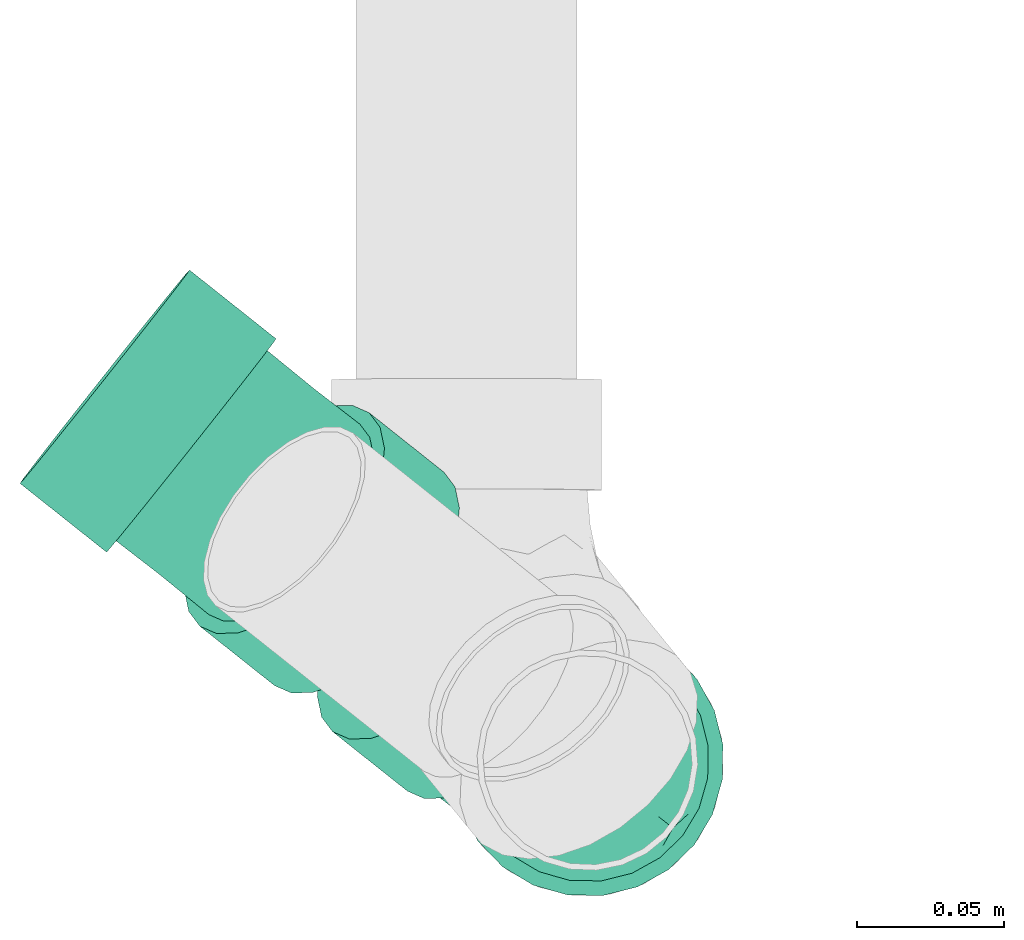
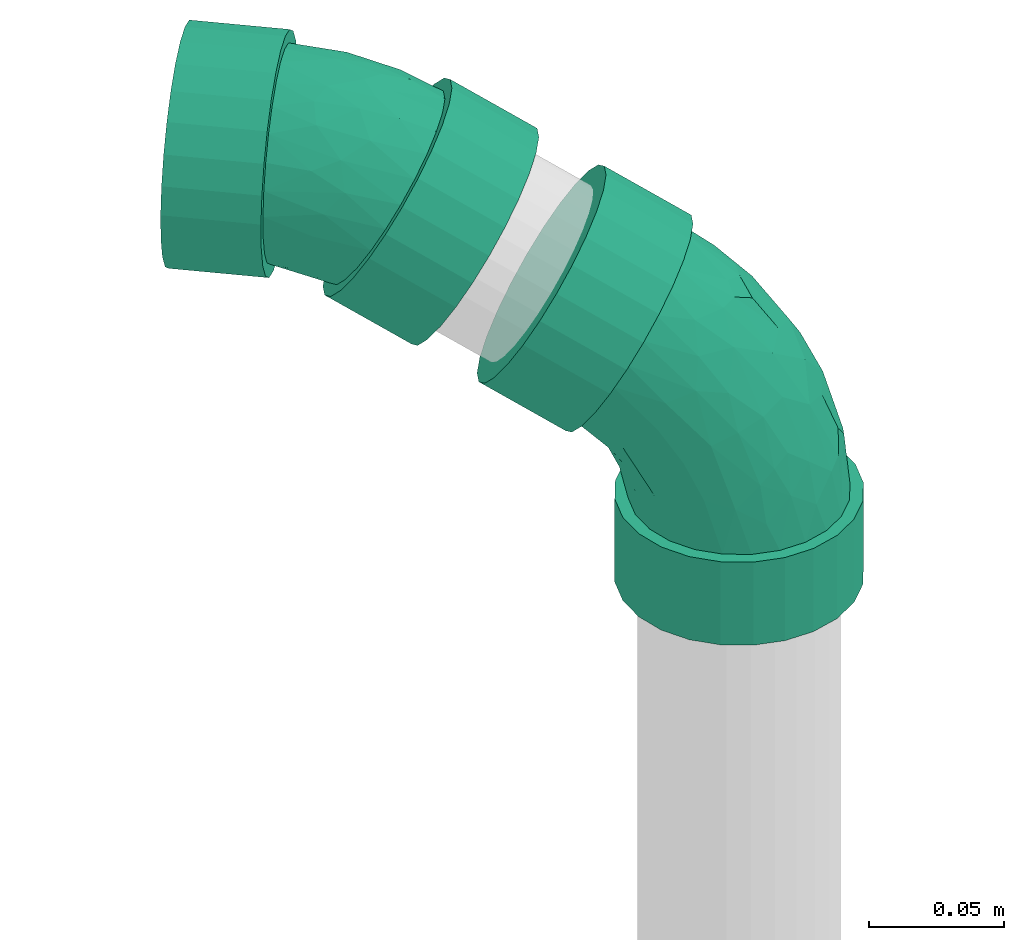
# One storey, part 4 of 4: 2 flow fittings.
"""IFC2X3 building model written with IfcOpenShell, lengths in millimetres."""

import ifcopenshell
import ifcopenshell.guid

model = None  # the IFC model being written
_history = None  # IfcOwnerHistory: only IFC2X3 demands one
_inside = {}  # id of a spatial element -> (the spatial element, [elements in it])
_under = {}  # id of a project, library or spatial element -> (it, [spatial elements below it])
_declared = {}  # id of a project -> (the project, [libraries it declares])
_typed = {}  # id of a type object -> (the type object, [elements of that type])
_made_of = {}  # id of a material, layer set ... -> (it, [elements and type objects made of it])


def new_model(schema):
    """Start an empty IFC model of exactly this schema.

    Asked for "IFC4X3", IfcOpenShell would pick the latest addendum, in which some entities
    have other attributes; the version numbers below select the first issue.
    IFC2X3 requires an IfcOwnerHistory on every rooted entity: one is made here for all.
    """
    global model, _history
    if schema == "IFC4X3":
        model = ifcopenshell.file(schema_version=(4, 3, 0, 0))
    else:
        model = ifcopenshell.file(schema=schema)
    _inside.clear()
    _under.clear()
    _declared.clear()
    _typed.clear()
    _made_of.clear()
    _history = None
    if model.schema == "IFC2X3":
        org = make("IfcOrganization", Name="unknown")
        user = make(
            "IfcPersonAndOrganization",
            ThePerson=make("IfcPerson", FamilyName="unknown"),
            TheOrganization=org,
        )
        app = make(
            "IfcApplication",
            ApplicationDeveloper=org,
            Version="unknown",
            ApplicationFullName="unknown",
            ApplicationIdentifier="unknown",
        )
        _history = make(
            "IfcOwnerHistory",
            OwningUser=user,
            OwningApplication=app,
            ChangeAction="ADDED",
            CreationDate=0,
        )
    return model


def make(cls, **values):
    """One entity of the class cls with the attributes given. An attribute that is None is left unset."""
    return model.create_entity(
        cls, **{name: value for name, value in values.items() if value is not None}
    )


def entity(cls, *values):
    """Any entity or typed value of the class cls, its attributes in the order of the schema. None: left unset."""
    e = model.create_entity(cls)
    for i, value in enumerate(values):
        if value is not None:
            e[i] = value
    return e


def rooted(cls, **values):
    """An entity with a GlobalId (a new one), such as an element, a storey or a relation."""
    return make(cls, GlobalId=ifcopenshell.guid.new(), OwnerHistory=_history, **values)


def si_unit(unit_type, name, prefix=None):
    """IfcSIUnit, for example si_unit("LENGTHUNIT", "METRE", prefix="MILLI")."""
    return make("IfcSIUnit", UnitType=unit_type, Prefix=prefix, Name=name)


def converted_unit(unit_type, name, factor, base, dimensions=None, offset=None):
    """IfcConversionBasedUnit, such as the inch: factor (a typed value) times the base unit."""
    return make(
        "IfcConversionBasedUnit"
        if offset is None
        else "IfcConversionBasedUnitWithOffset",
        ConversionOffset=offset,
        Dimensions=None
        if dimensions is None
        else entity("IfcDimensionalExponents", *dimensions),
        UnitType=unit_type,
        Name=name,
        ConversionFactor=make(
            "IfcMeasureWithUnit", ValueComponent=factor, UnitComponent=base
        ),
    )


def derived_unit(unit_type, elements):
    """IfcDerivedUnit: a product of units, each with its exponent."""
    return make(
        "IfcDerivedUnit",
        Elements=[
            make("IfcDerivedUnitElement", Unit=unit, Exponent=power)
            for unit, power in elements
        ],
        UnitType=unit_type,
    )


def assignment(units):
    """IfcUnitAssignment: the units of a project."""
    return None if units is None else make("IfcUnitAssignment", Units=units)


def point(xyz):
    """IfcCartesianPoint."""
    return None if xyz is None else make("IfcCartesianPoint", Coordinates=xyz)


def direction(xyz):
    """IfcDirection."""
    return None if xyz is None else make("IfcDirection", DirectionRatios=xyz)


def frame(location, z_axis=None, x_axis=None):
    """IfcAxis2Placement3D, a coordinate frame: its origin and axes. An axis left out is left unset."""
    return make(
        "IfcAxis2Placement3D",
        Location=point(location),
        Axis=direction(z_axis),
        RefDirection=direction(x_axis),
    )


def origin_with_axes():
    """The frame at (0, 0, 0) with the z axis (0, 0, 1) and the x axis (1, 0, 0) written out."""
    return frame((0.0, 0.0, 0.0), z_axis=(0.0, 0.0, 1.0), x_axis=(1.0, 0.0, 0.0))


def place(relative_to, where):
    """IfcLocalPlacement: puts the frame where relative to a parent placement (None: the world)."""
    return make(
        "IfcLocalPlacement", PlacementRelTo=relative_to, RelativePlacement=where
    )


def context(
    kind, dimensions, precision=None, world=None, true_north=None, identifier=None
):
    """IfcGeometricRepresentationContext, for example the 3D "Model" context."""
    return make(
        "IfcGeometricRepresentationContext",
        ContextIdentifier=identifier,
        ContextType=kind,
        CoordinateSpaceDimension=dimensions,
        Precision=precision,
        WorldCoordinateSystem=world,
        TrueNorth=true_north,
    )


def subcontext(parent, identifier, kind, view, scale=None):
    """IfcGeometricRepresentationSubContext, for example "Body" below "Model"."""
    return make(
        "IfcGeometricRepresentationSubContext",
        ContextIdentifier=identifier,
        ContextType=kind,
        ParentContext=parent,
        TargetScale=scale,
        TargetView=view,
    )


def project(units=None, contexts=None):
    """IfcProject with its units and contexts."""
    return rooted(
        "IfcProject",
        Name="project",
        RepresentationContexts=contexts,
        UnitsInContext=assignment(units),
    )


def spatial(cls, under=None, at=None, **own):
    """A site, building, storey or space (cls), placed at a placement, below another one or the project."""
    s = rooted(cls, ObjectPlacement=at, **own)
    if under is not None:
        _under.setdefault(under.id(), (under, []))[1].append(s)
    return s


def faces_of(points, faces, orient=None, outer=None):
    """IfcFace entities. A face is a list of loops; a loop is a list of indices into points, from 0.

    orient and outer hold one flag for each loop. By default every Orientation is true, the
    first loop of a face is its IfcFaceOuterBound and the others are IfcFaceBound.
    """
    made = []
    for i, loops in enumerate(faces):
        bounds = []
        for j, loop in enumerate(loops):
            is_outer = j == 0 if outer is None else outer[i][j]
            bounds.append(
                make(
                    "IfcFaceOuterBound" if is_outer else "IfcFaceBound",
                    Bound=make("IfcPolyLoop", Polygon=[points[k] for k in loop]),
                    Orientation=True if orient is None else orient[i][j],
                )
            )
        made.append(make("IfcFace", Bounds=bounds))
    return made


def open_shell(faces, orient=None, outer=None):
    """The faces of one IfcOpenShell. surface_model builds it on its shared points."""
    return ("IfcOpenShell", faces, orient, outer)


def surface_model(cls, points, shells):
    """IfcFaceBasedSurfaceModel or IfcShellBasedSurfaceModel (cls): surfaces that need not close."""
    shared = [point(p) for p in points]
    made = [make(c, CfsFaces=faces_of(shared, fs, o, b)) for c, fs, o, b in shells]
    if cls == "IfcFaceBasedSurfaceModel":
        return make(cls, FbsmFaces=made)
    return make(cls, SbsmBoundary=made)


def shape(context_of_items, identifier, shape_type, items):
    """IfcShapeRepresentation: the items that make up one representation, for example the "Body"."""
    return make(
        "IfcShapeRepresentation",
        ContextOfItems=context_of_items,
        RepresentationIdentifier=identifier,
        RepresentationType=shape_type,
        Items=items,
    )


def source(mapping_origin, context_of_items, identifier, shape_type, items):
    """IfcRepresentationMap: a shape defined once, which mapped items show again and again."""
    return make(
        "IfcRepresentationMap",
        MappingOrigin=mapping_origin,
        MappedRepresentation=shape(context_of_items, identifier, shape_type, items),
    )


def transform(
    local_origin,
    x_axis=None,
    y_axis=None,
    z_axis=None,
    scale=None,
    scale2=None,
    scale3=None,
    uniform=True,
):
    """IfcCartesianTransformationOperator3D, or its non-uniform kind. x_axis, y_axis, z_axis: its Axis1, 2, 3."""
    if uniform:
        return make(
            "IfcCartesianTransformationOperator3D",
            Axis1=direction(x_axis),
            Axis2=direction(y_axis),
            LocalOrigin=point(local_origin),
            Scale=scale,
            Axis3=direction(z_axis),
        )
    return make(
        "IfcCartesianTransformationOperator3DnonUniform",
        Axis1=direction(x_axis),
        Axis2=direction(y_axis),
        LocalOrigin=point(local_origin),
        Scale=scale,
        Axis3=direction(z_axis),
        Scale2=scale2,
        Scale3=scale3,
    )


def mapped(mapping_source, mapping_target):
    """IfcMappedItem: shows the shape of a source again, moved by a transform."""
    return make(
        "IfcMappedItem", MappingSource=mapping_source, MappingTarget=mapping_target
    )


def made_of(thing, what):
    """Note that an element or type object is made of a material, layer set ...; save() writes the relation."""
    if what is not None:
        _made_of.setdefault(what.id(), (what, []))[1].append(thing)
    return thing


def type_object(cls, material=None, **own):
    """A type object (cls), such as IfcWallType, which elements share."""
    return made_of(rooted(cls, **own), material)


def element(
    cls,
    number,
    at=None,
    inside=None,
    cuts=None,
    type_object=None,
    material=None,
    context=None,
    identifier="Body",
    shape_type=None,
    held_by="IfcProductDefinitionShape",
    body=None,
    shapes=None,
    **own,
):
    """One element of the class cls, such as IfcWall. Its Tag is "e" and its number.

    at: its placement. inside: the storey or other place that contains it. cuts: it is an
    opening in that element (IfcRelVoidsElement). A single representation is given by context,
    identifier, shape_type and body (its items); several are given by shapes. held_by: the class
    of the entity that holds the representations. save() writes the other relations.
    """
    e = rooted(cls, Tag="e%d" % number, ObjectPlacement=at, **own)
    if body is not None:
        shapes = [shape(context, identifier, shape_type, body)]
    if shapes is not None:
        e.Representation = make(held_by, Representations=shapes)
    if inside is not None:
        _inside.setdefault(inside.id(), (inside, []))[1].append(e)
    if cuts is not None:
        rooted(
            "IfcRelVoidsElement", RelatingBuildingElement=cuts, RelatedOpeningElement=e
        )
    if type_object is not None:
        _typed.setdefault(type_object.id(), (type_object, []))[1].append(e)
    return made_of(e, material)


def aggregate(whole, parts):
    """IfcRelAggregates: a whole, such as a stair, and the parts it consists of."""
    return rooted("IfcRelAggregates", RelatingObject=whole, RelatedObjects=parts)


def save(model, path):
    """Write the relations noted so far, then the file.

    IfcRelAggregates (storeys below a building ...), IfcRelContainedInSpatialStructure (elements
    in a storey), IfcRelDefinesByType, IfcRelAssociatesMaterial and IfcRelDeclares: one each for
    every whole, place, type object, material and project.
    """
    for whole, parts in _under.values():
        aggregate(whole, parts)
    for where, things in _inside.values():
        rooted(
            "IfcRelContainedInSpatialStructure",
            RelatedElements=things,
            RelatingStructure=where,
        )
    for kind, things in _typed.values():
        rooted("IfcRelDefinesByType", RelatedObjects=things, RelatingType=kind)
    for what, things in _made_of.values():
        rooted("IfcRelAssociatesMaterial", RelatedObjects=things, RelatingMaterial=what)
    for by, libraries in _declared.values():
        rooted("IfcRelDeclares", RelatingContext=by, RelatedDefinitions=libraries)
    model.write(path)


model = new_model("IFC2X3")

# Units and contexts
model_context = context("Model", 3, precision=0.01, world=frame((0.0, 4.29681676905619e-09, 0.0)), true_north=direction((4.01073788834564e-13, 1.0)))
plan_context = context("Plan", 3, precision=0.01, world=frame((0.0, 4.29681676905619e-09, 0.0)), true_north=direction((4.01073788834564e-13, 1.0)))
body_context = subcontext(model_context, "Body", "Model", "MODEL_VIEW")
ifc_project = project(units=[converted_unit("PLANEANGLEUNIT", "DEGREE", entity("IfcPositiveLengthMeasure", 0.0174532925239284), si_unit("PLANEANGLEUNIT", "RADIAN"), dimensions=[0, 0, 0, 0, 0, 0, 0]), si_unit("AREAUNIT", "SQUARE_METRE"), si_unit("LENGTHUNIT", "METRE", prefix="MILLI"), si_unit("MASSUNIT", "GRAM", prefix="KILO"), si_unit("POWERUNIT", "WATT"), si_unit("PRESSUREUNIT", "PASCAL", prefix="KILO"), si_unit("FORCEUNIT", "NEWTON", prefix="KILO"), si_unit("ELECTRICVOLTAGEUNIT", "VOLT"), si_unit("ELECTRICCURRENTUNIT", "AMPERE"), si_unit("THERMODYNAMICTEMPERATUREUNIT", "DEGREE_CELSIUS"), si_unit("TIMEUNIT", "SECOND"), si_unit("VOLUMEUNIT", "CUBIC_METRE"), derived_unit("LINEARVELOCITYUNIT", [(si_unit("LENGTHUNIT", "METRE"), 1), (si_unit("TIMEUNIT", "SECOND"), -1)]), derived_unit("VOLUMETRICFLOWRATEUNIT", [(si_unit("VOLUMEUNIT", "CUBIC_METRE"), 1), (si_unit("TIMEUNIT", "SECOND"), -1)]), derived_unit("THERMALTRANSMITTANCEUNIT", [(si_unit("POWERUNIT", "WATT"), 1), (si_unit("THERMODYNAMICTEMPERATUREUNIT", "KELVIN"), -1), (si_unit("AREAUNIT", "SQUARE_METRE"), -1)]), derived_unit("SOUNDPRESSUREUNIT", [(si_unit("PRESSUREUNIT", "PASCAL"), 1)])], contexts=[model_context, plan_context])

# Site, building, storey
site_placement = place(None, frame((0.0, -4.29681676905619e-09, 0.0), z_axis=(0.0, 0.0, 1.0), x_axis=(1.0, 0.0, 0.0)))
site = spatial("IfcSite", under=ifc_project, at=site_placement, CompositionType="ELEMENT")
building_placement = place(site_placement, frame((0.0, 4.29681676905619e-09, 0.0), z_axis=(0.0, 0.0, 1.0), x_axis=(1.0, 0.0, 0.0)))
building = spatial("IfcBuilding", under=site, at=building_placement, Name="mc-building", CompositionType="ELEMENT")
storey_placement = place(building_placement, frame((0.0, 0.0, 200300.0), z_axis=(0.0, 0.0, 1.0), x_axis=(1.0, 0.0, 0.0)))
storey = spatial("IfcBuildingStorey", under=building, at=storey_placement, Name="Nivå C", CompositionType="ELEMENT", Elevation=200300.0)

# Flow fittings
pipe_fitting_type = type_object("IfcPipeFittingType", Name="magi_sewer_bend_001", PredefinedType="BEND")
shared_shape_1 = source(origin_with_axes(), body_context, "Body", "SurfaceModel", [
    surface_model("IfcShellBasedSurfaceModel", [(-85.16846, -44.67407, -11.97038), (-85.16846, -11.97038, -44.67407), (-85.16846, -23.125, -40.05367), (-85.16846, -32.70369, -32.70369), (-85.16846, 0.0, -46.25), (-85.16846, -40.05367, -23.125), (-85.16846, -46.25, 0.0), (-85.16846, 11.97038, -44.67407), (-85.16846, 32.70369, -32.70369), (-85.16846, 23.125, -40.05367), (-85.16846, 44.67407, -11.97038), (-85.16846, 40.05367, -23.125), (-85.16846, -32.70369, 32.70369), (-85.16846, -44.67407, 11.97038), (-85.16846, -40.05367, 23.125), (-85.16846, 40.05367, 23.125), (-85.16846, -23.125, 40.05367), (-85.16846, -11.97038, 44.67407), (-85.16846, 0.0, 46.25), (-85.16846, 11.97038, 44.67407), (-85.16846, 44.67407, 11.97038), (-85.16846, 46.25, 0.0), (-85.16846, 23.125, 40.05367), (-85.16846, 32.70369, 32.70369), (-47.66846, 0.0, 46.25), (-47.66846, -11.97038, 44.67407), (-47.66846, -23.125, 40.05367), (-47.66846, -32.70369, 32.70369), (-47.66846, -40.05367, 23.125), (-47.66846, -44.67407, 11.97038), (-47.66846, 40.05367, 23.125), (-47.66846, -44.67407, -11.97038), (-47.66846, 23.125, 40.05367), (-47.66846, 32.70369, 32.70369), (-47.66846, 11.97038, 44.67407), (-47.66846, 44.67407, 11.97038), (-47.66846, 44.67407, -11.97038), (-47.66846, 46.25, 0.0), (-47.66846, -32.70369, -32.70369), (-47.66846, -40.05367, -23.125), (-47.66846, -23.125, -40.05367), (-47.66846, -11.97038, -44.67407), (-47.66846, 11.97038, -44.67407), (-47.66846, 32.70369, -32.70369), (-47.66846, 40.05367, -23.125), (-47.66846, 23.125, -40.05367), (-47.66846, 0.0, -46.25), (-47.66846, -46.25, 0.0), (7.83354, 93.79019, 23.125), (2.46528, 96.88473, 0.0), (3.83061, 96.09769, 11.97038), (32.16384, 79.76493, 44.67407), (14.20129, 90.11948, 32.70369), (32.16384, 79.76493, -44.67407), (22.49991, 85.33573, 40.05367), (70.86776, 57.45396, 32.70369), (3.83061, 96.09769, -11.97038), (14.20129, 90.11948, -32.70369), (7.83354, 93.79019, -23.125), (22.49991, 85.33573, -40.05367), (42.53453, 73.78672, 46.25), (52.90521, 67.80852, 44.67407), (62.56915, 62.23772, 40.05367), (81.23845, 51.47576, -11.97038), (77.23551, 53.78326, 23.125), (81.23845, 51.47576, 11.97038), (82.60377, 50.68871, 0.0), (62.56915, 62.23772, -40.05367), (52.90521, 67.80852, -44.67407), (42.53453, 73.78672, -46.25), (70.86776, 57.45396, -32.70369), (77.23551, 53.78326, -23.125), (63.87566, 18.20013, 0.0), (62.51033, 18.98718, 11.97038), (58.5074, 21.29468, 23.125), (43.84103, 29.74914, -40.05367), (52.13965, 24.96538, 32.70369), (43.84103, 29.74914, 40.05367), (34.17709, 35.31994, 44.67407), (13.43573, 47.27635, -44.67407), (62.51033, 18.98718, -11.97038), (52.13965, 24.96538, -32.70369), (58.5074, 21.29468, -23.125), (34.17709, 35.31994, -44.67407), (23.80641, 41.29814, -46.25), (13.43573, 47.27635, 44.67407), (-4.52682, 57.6309, 32.70369), (3.77179, 52.84715, 40.05367), (-10.89457, 61.30161, 23.125), (-14.89751, 63.60911, 11.97038), (-4.52682, 57.6309, -32.70369), (3.77179, 52.84715, -40.05367), (-16.26283, 64.39616, 0.0), (-10.89457, 61.30161, -23.125), (-14.89751, 63.60911, -11.97038), (23.80641, 41.29814, 46.25), (-47.66846, 0.0, -41.25), (-47.66846, -35.72355, 20.625), (-47.66846, 10.67629, -39.84444), (-47.66846, 20.625, -35.72355), (-47.66846, 35.72355, -20.625), (-47.66846, 29.16816, -29.16816), (-47.66846, -41.25, 0.0), (-47.66846, -29.16816, -29.16816), (-47.66846, -20.625, -35.72355), (-47.66846, -10.67629, -39.84444), (-47.66846, -39.84444, -10.67629), (-47.66846, -35.72355, -20.625), (-47.66846, 39.84444, -10.67629), (-47.66846, 35.72355, 20.625), (-47.66846, 39.84444, 10.67629), (-47.66846, 41.25, 0.0), (-47.66846, -10.67629, 39.84444), (-47.66846, 10.67629, 39.84444), (-47.66846, 20.625, 35.72355), (-47.66846, 29.16816, 29.16816), (-47.66846, 0.0, 41.25), (-47.66846, -29.16816, 29.16816), (-47.66846, -39.84444, 10.67629), (-47.66846, -20.625, 35.72355), (14.55688, 46.63006, -39.84444), (41.67513, 30.99768, -35.72355), (23.80641, 41.29814, -41.25), (-1.46377, 55.8652, -29.16816), (5.93769, 51.59861, -35.72355), (-7.14312, 59.13907, -20.625), (-10.7133, 61.19711, -10.67629), (59.54384, 20.69722, 0.0), (-1.46377, 55.8652, 29.16816), (49.0766, 26.73109, -29.16816), (33.05594, 35.96623, -39.84444), (58.32612, 21.39918, -10.67629), (54.75594, 23.45722, -20.625), (-11.93102, 61.89907, 0.0), (-10.7133, 61.19711, 10.67629), (-7.14312, 59.13907, 20.625), (5.93769, 51.59861, 35.72355), (49.0766, 26.73109, 29.16816), (23.80641, 41.29814, 41.25), (14.55688, 46.63006, 39.84444), (54.75594, 23.45722, 20.625), (58.32612, 21.39918, 10.67629), (33.05594, 35.96623, 39.84444), (41.67513, 30.99768, 35.72355), (-33.54198, -32.49785, 24.25947), (-25.30998, -36.65663, 14.18002), (-15.41949, -29.61675, 23.11882), (-27.27856, -38.56387, 0.0), (-15.61947, -37.02792, 0.0), (-22.85422, -38.1422, 6.90644), (-27.53789, -4.67298, 40.65737), (-24.21126, 6.99275, 41.10689), (1.33068, 35.26122, 38.64069), (6.03324, 24.46801, 41.10689), (-25.4555, -24.1331, 31.67701), (-17.93737, -13.38105, 37.17117), (-34.96458, -15.86374, 37.72687), (-8.25869, -22.40159, 28.77083), (-12.71212, -18.17991, 33.49509), (-28.87771, 26.78166, 33.76311), (-0.01259, 4.50357, 40.27775), (33.97529, 10.45086, 31.70476), (-21.95843, 38.00355, 27.08754), (-34.45901, 35.38386, 23.97511), (2.96965, -28.23165, 12.65482), (11.40777, -19.4341, 21.31566), (-20.82105, 46.26773, 17.3905), (-12.81246, 22.17458, 39.20444), (-31.21354, 16.45719, 38.64069), (-28.25874, 44.89425, 9.33166), (-34.96495, 39.46279, 16.90464), (4.26188, -5.1104, 36.43275), (22.06225, 10.50322, 37.24561), (44.39813, 3.62068, 14.18002), (-10.94438, 47.88478, 25.98884), (17.80137, 21.52402, 40.65737), (25.32921, -14.59896, 13.50148), (27.06143, -14.80502, 0.0), (44.45873, 0.75119, 6.90644), (44.90632, 12.82954, 24.25947), (-8.78061, 38.39375, 33.76311), (-0.68842, -30.83886, 0.0), (-8.43139, 14.59224, 41.04856), (19.38324, -1.07603, 33.0756), (33.35957, -1.43223, 23.11882), (-27.03143, 46.7834, 0.0), (14.24264, -24.64979, 0.0), (47.03363, 4.37367, 0.0), (7.82411, -13.54123, 29.89718), (39.88021, -4.96024, 0.0), (-20.11784, -13.86842, -37.24561), (22.97574, -16.67214, -12.65482), (44.39813, 3.62068, -14.18002), (44.45873, 0.75119, -6.90644), (6.03325, 24.46801, -41.10689), (-24.21126, 6.99275, -41.10689), (-29.68624, 41.14544, -17.3905), (-21.95843, 38.00355, -27.08754), (-36.01976, 33.39624, -25.98884), (17.80137, 21.52402, -40.65737), (-28.87771, 26.78166, -33.76311), (44.90632, 12.82954, -24.25947), (-8.78061, 38.39375, -33.76311), (-25.30998, -36.65663, -14.18002), (-31.21354, 16.45718, -38.64069), (-33.54198, -32.49785, -24.25947), (-16.72699, 50.00067, -16.90464), (-22.85422, -38.1422, -6.90644), (-0.00184, -29.23523, -13.50148), (11.13974, -19.58897, -21.31566), (-26.02205, -24.21557, -31.70476), (2.299, -6.24455, -36.43275), (-3.89543, 2.26006, -40.27775), (20.55105, 8.85755, -37.17117), (-8.43139, 14.59224, -41.04856), (-12.81246, 22.17458, -39.20444), (-27.53789, -4.67298, -40.65737), (-8.74808, -17.33029, -33.0756), (-15.41949, -29.61675, -23.11882), (-24.78179, 46.90323, -9.33166), (-13.44584, 47.52526, -23.97511), (1.33068, 35.26122, -38.64069), (33.35958, -1.43223, -23.11882), (33.6209, 10.00122, -31.67701), (23.53242, -4.03271, -28.77083), (22.09903, 1.93395, -33.49509), (31.20563, 22.36938, -37.72687), (7.82411, -13.54123, -29.89718)], [open_shell([[[0, 1, 2]], [[0, 2, 3]], [[1, 0, 4]], [[0, 3, 5]], [[4, 0, 6]], [[7, 8, 9]], [[8, 7, 4]], [[8, 10, 11]], [[10, 8, 4]], [[4, 6, 10]], [[6, 12, 10]], [[13, 14, 12]], [[10, 12, 15]], [[16, 17, 18]], [[16, 18, 12]], [[19, 12, 18]], [[10, 20, 21]], [[15, 20, 10]], [[15, 22, 23]], [[22, 15, 19]], [[12, 19, 15]], [[6, 13, 12]], [[24, 25, 26]], [[24, 26, 27]], [[27, 28, 29]], [[24, 27, 30]], [[27, 31, 30]], [[32, 30, 33]], [[30, 32, 34]], [[35, 36, 37]], [[30, 34, 24]], [[35, 30, 36]], [[27, 29, 31]], [[36, 30, 31]], [[38, 31, 39]], [[40, 41, 31]], [[40, 31, 38]], [[42, 31, 41]], [[36, 43, 44]], [[36, 31, 43]], [[43, 42, 45]], [[31, 42, 43]], [[41, 46, 42]], [[31, 29, 47]], [[36, 10, 37]], [[44, 11, 36]], [[9, 43, 45]], [[44, 43, 8]], [[7, 45, 42]], [[36, 11, 10]], [[10, 21, 37]], [[7, 9, 45]], [[8, 43, 9]], [[8, 11, 44]], [[4, 7, 42]], [[42, 46, 4]], [[46, 41, 1]], [[5, 39, 31]], [[39, 3, 38]], [[0, 31, 47]], [[1, 40, 2]], [[40, 1, 41]], [[40, 38, 2]], [[38, 3, 2]], [[39, 5, 3]], [[0, 5, 31]], [[47, 6, 0]], [[46, 1, 4]], [[29, 13, 47]], [[28, 14, 29]], [[16, 27, 26]], [[28, 27, 12]], [[17, 26, 25]], [[29, 14, 13]], [[13, 6, 47]], [[17, 16, 26]], [[12, 27, 16]], [[12, 14, 28]], [[18, 17, 25]], [[25, 24, 18]], [[33, 22, 32]], [[35, 15, 30]], [[33, 30, 23]], [[20, 35, 37]], [[32, 19, 34]], [[32, 22, 19]], [[19, 18, 34]], [[33, 23, 22]], [[30, 15, 23]], [[20, 15, 35]], [[37, 21, 20]], [[34, 18, 24]], [[48, 49, 50]], [[51, 48, 52]], [[48, 51, 53]], [[51, 52, 54]], [[51, 55, 53]], [[56, 57, 58]], [[57, 56, 49]], [[57, 53, 59]], [[53, 57, 49]], [[49, 48, 53]], [[51, 60, 61]], [[61, 62, 55]], [[63, 53, 55]], [[64, 65, 66]], [[55, 64, 63]], [[66, 63, 64]], [[67, 68, 53]], [[69, 53, 68]], [[70, 63, 71]], [[63, 70, 67]], [[67, 53, 63]], [[51, 61, 55]], [[72, 73, 74]], [[75, 72, 74]], [[76, 77, 78]], [[79, 75, 74]], [[74, 76, 79]], [[80, 81, 82]], [[81, 80, 75]], [[83, 79, 84]], [[75, 80, 72]], [[83, 75, 79]], [[76, 78, 85]], [[79, 76, 85]], [[86, 85, 87]], [[79, 86, 88]], [[79, 85, 86]], [[89, 79, 88]], [[79, 90, 91]], [[90, 79, 92]], [[93, 92, 94]], [[92, 93, 90]], [[79, 89, 92]], [[85, 78, 95]], [[79, 53, 84]], [[91, 59, 79]], [[58, 90, 93]], [[91, 90, 57]], [[56, 93, 94]], [[79, 59, 53]], [[53, 69, 84]], [[56, 58, 93]], [[57, 90, 58]], [[57, 59, 91]], [[49, 56, 94]], [[94, 92, 49]], [[92, 89, 50]], [[54, 87, 85]], [[87, 52, 86]], [[51, 85, 95]], [[50, 88, 48]], [[88, 50, 89]], [[88, 86, 48]], [[86, 52, 48]], [[87, 54, 52]], [[51, 54, 85]], [[95, 60, 51]], [[92, 50, 49]], [[78, 61, 95]], [[77, 62, 78]], [[64, 76, 74]], [[77, 76, 55]], [[65, 74, 73]], [[78, 62, 61]], [[61, 60, 95]], [[65, 64, 74]], [[55, 76, 64]], [[55, 62, 77]], [[66, 65, 73]], [[73, 72, 66]], [[81, 71, 82]], [[83, 67, 75]], [[81, 75, 70]], [[68, 83, 84]], [[82, 63, 80]], [[82, 71, 63]], [[63, 66, 80]], [[81, 70, 71]], [[75, 67, 70]], [[68, 67, 83]], [[84, 69, 68]], [[80, 66, 72]], [[96, 97, 98]], [[99, 98, 100]], [[100, 98, 97]], [[101, 99, 100]], [[97, 96, 102]], [[103, 102, 104]], [[96, 105, 104]], [[106, 102, 107]], [[103, 107, 102]], [[104, 102, 96]], [[108, 100, 97]], [[109, 110, 111]], [[109, 111, 112]], [[113, 114, 115]], [[109, 113, 115]], [[113, 109, 116]], [[97, 117, 111]], [[97, 102, 118]], [[119, 112, 117]], [[112, 111, 117]], [[116, 109, 112]], [[111, 108, 97]], [[120, 121, 122]], [[123, 120, 124]], [[123, 125, 126]], [[120, 123, 127]], [[123, 128, 127]], [[121, 127, 129]], [[121, 130, 122]], [[129, 131, 132]], [[131, 129, 127]], [[120, 127, 121]], [[123, 126, 133]], [[133, 134, 135]], [[135, 128, 123]], [[136, 137, 127]], [[127, 128, 136]], [[138, 136, 139]], [[127, 140, 141]], [[137, 140, 127]], [[137, 142, 143]], [[142, 137, 138]], [[136, 138, 137]], [[123, 133, 135]], [[144, 145, 146]], [[147, 148, 149]], [[116, 150, 151]], [[139, 152, 153]], [[154, 155, 156]], [[157, 158, 154]], [[115, 114, 159]], [[150, 160, 151]], [[119, 156, 112]], [[139, 136, 152]], [[137, 143, 161]], [[113, 116, 151]], [[145, 97, 118]], [[162, 163, 159]], [[146, 164, 165]], [[163, 162, 166]], [[167, 168, 151]], [[164, 145, 149]], [[119, 117, 154]], [[169, 110, 170]], [[117, 97, 144]], [[111, 110, 169]], [[166, 170, 163]], [[160, 171, 172]], [[113, 168, 114]], [[140, 173, 141]], [[145, 164, 146]], [[128, 135, 174]], [[138, 153, 175]], [[176, 177, 178]], [[179, 140, 137]], [[142, 138, 175]], [[118, 147, 149]], [[173, 140, 179]], [[162, 159, 180]], [[172, 161, 143]], [[167, 180, 159]], [[178, 141, 173]], [[149, 181, 164]], [[167, 152, 180]], [[182, 160, 153]], [[135, 134, 166]], [[183, 184, 161]], [[166, 162, 174]], [[116, 112, 150]], [[185, 169, 133]], [[109, 170, 110]], [[153, 138, 139]], [[175, 160, 172]], [[180, 128, 174]], [[134, 133, 169]], [[136, 128, 180]], [[143, 142, 172]], [[151, 182, 167]], [[168, 159, 114]], [[186, 176, 164]], [[164, 176, 165]], [[171, 160, 155]], [[176, 173, 184]], [[141, 178, 187]], [[144, 154, 117]], [[157, 154, 146]], [[165, 184, 188]], [[189, 178, 177]], [[183, 161, 172]], [[179, 161, 184]], [[156, 150, 112]], [[160, 150, 155]], [[160, 175, 153]], [[172, 142, 175]], [[151, 168, 113]], [[159, 168, 167]], [[180, 152, 136]], [[153, 152, 167]], [[184, 165, 176]], [[165, 188, 157]], [[170, 109, 163]], [[169, 170, 166]], [[134, 169, 166]], [[169, 185, 111]], [[109, 115, 163]], [[159, 163, 115]], [[118, 102, 147]], [[165, 157, 146]], [[118, 149, 145]], [[187, 178, 189]], [[187, 127, 141]], [[176, 178, 173]], [[166, 174, 135]], [[180, 174, 162]], [[145, 144, 97]], [[154, 144, 146]], [[161, 179, 137]], [[173, 179, 184]], [[154, 156, 119]], [[150, 156, 155]], [[158, 155, 154]], [[183, 171, 188]], [[160, 182, 151]], [[153, 167, 182]], [[181, 149, 148]], [[181, 186, 164]], [[188, 171, 158]], [[188, 158, 157]], [[171, 155, 158]], [[176, 186, 177]], [[171, 183, 172]], [[184, 183, 188]], [[190, 104, 105]], [[191, 192, 193]], [[120, 122, 194]], [[195, 96, 98]], [[196, 197, 198]], [[122, 199, 194]], [[99, 101, 200]], [[129, 132, 201]], [[101, 100, 198]], [[123, 124, 202]], [[107, 203, 106]], [[204, 98, 99]], [[203, 107, 205]], [[125, 206, 126]], [[207, 106, 203]], [[191, 208, 209]], [[210, 104, 190]], [[208, 181, 207]], [[210, 103, 104]], [[211, 212, 213]], [[194, 214, 215]], [[103, 205, 107]], [[216, 105, 96]], [[191, 186, 208]], [[214, 212, 195]], [[217, 218, 210]], [[111, 185, 219]], [[193, 177, 191]], [[133, 126, 219]], [[108, 111, 219]], [[108, 196, 100]], [[206, 220, 196]], [[220, 197, 196]], [[216, 96, 195]], [[124, 120, 221]], [[98, 204, 195]], [[200, 101, 198]], [[197, 220, 202]], [[192, 132, 131]], [[194, 215, 221]], [[194, 199, 212]], [[222, 191, 209]], [[223, 224, 225]], [[226, 223, 213]], [[212, 211, 190]], [[226, 130, 121]], [[222, 201, 192]], [[216, 212, 190]], [[193, 187, 189]], [[215, 204, 200]], [[197, 202, 200]], [[191, 222, 192]], [[122, 130, 199]], [[121, 129, 223]], [[215, 200, 202]], [[206, 219, 126]], [[131, 187, 193]], [[221, 202, 124]], [[208, 203, 218]], [[106, 207, 147]], [[201, 223, 129]], [[224, 223, 222]], [[209, 218, 227]], [[148, 207, 181]], [[217, 210, 190]], [[205, 210, 218]], [[226, 199, 130]], [[212, 199, 213]], [[212, 216, 195]], [[190, 105, 216]], [[200, 204, 99]], [[195, 204, 215]], [[194, 221, 120]], [[202, 221, 215]], [[218, 209, 208]], [[209, 227, 224]], [[206, 125, 220]], [[219, 206, 196]], [[108, 219, 196]], [[219, 185, 133]], [[125, 123, 220]], [[202, 220, 123]], [[147, 207, 148]], [[147, 102, 106]], [[208, 207, 203]], [[131, 127, 187]], [[209, 224, 222]], [[131, 193, 192]], [[196, 198, 100]], [[200, 198, 197]], [[192, 201, 132]], [[223, 201, 222]], [[210, 205, 103]], [[203, 205, 218]], [[223, 226, 121]], [[199, 226, 213]], [[225, 213, 223]], [[217, 211, 227]], [[212, 214, 194]], [[195, 215, 214]], [[177, 193, 189]], [[177, 186, 191]], [[227, 211, 225]], [[227, 225, 224]], [[211, 213, 225]], [[208, 186, 181]], [[211, 217, 190]], [[218, 217, 227]]])]),
])
flow_fitting_1_placement = place(storey_placement, frame((324477.11273, 462987.83653, 12555.26475), z_axis=(-0.621972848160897, -0.783038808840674, 0.0), x_axis=(0.0, 0.0, 1.0)))
element("IfcFlowFitting", 1, at=flow_fitting_1_placement, inside=storey, type_object=pipe_fitting_type, Name="magi_sewer_bend_001", context=body_context, shape_type="MappedRepresentation", body=[
    mapped(shared_shape_1, transform((0.0, 0.0, 0.0), scale=1.0)),
])
shared_shape_2 = source(origin_with_axes(), body_context, "Body", "SurfaceModel", [
    surface_model("IfcShellBasedSurfaceModel", [(-59.13459, -44.67407, -11.97038), (-59.13459, -11.97038, -44.67407), (-59.13459, -23.125, -40.05367), (-59.13459, -32.70369, -32.70369), (-59.13459, 0.0, -46.25), (-59.13459, -40.05367, -23.125), (-59.13459, -46.25, 0.0), (-59.13459, 11.97038, -44.67407), (-59.13459, 32.70369, -32.70369), (-59.13459, 23.125, -40.05367), (-59.13459, 44.67407, -11.97038), (-59.13459, 40.05367, -23.125), (-59.13459, -32.70369, 32.70369), (-59.13459, -44.67407, 11.97038), (-59.13459, -40.05367, 23.125), (-59.13459, 40.05367, 23.125), (-59.13459, -23.125, 40.05367), (-59.13459, -11.97038, 44.67407), (-59.13459, 0.0, 46.25), (-59.13459, 11.97038, 44.67407), (-59.13459, 44.67407, 11.97038), (-59.13459, 46.25, 0.0), (-59.13459, 23.125, 40.05367), (-59.13459, 32.70369, 32.70369), (-21.63459, 0.0, 46.25), (-21.63459, -11.97038, 44.67407), (-21.63459, -23.125, 40.05367), (-21.63459, -32.70369, 32.70369), (-21.63459, -40.05367, 23.125), (-21.63459, -44.67407, 11.97038), (-21.63459, 40.05367, 23.125), (-21.63459, -44.67407, -11.97038), (-21.63459, 23.125, 40.05367), (-21.63459, 32.70369, 32.70369), (-21.63459, 11.97038, 44.67407), (-21.63459, 44.67407, 11.97038), (-21.63459, 44.67407, -11.97038), (-21.63459, 46.25, 0.0), (-21.63459, -32.70369, -32.70369), (-21.63459, -40.05367, -23.125), (-21.63459, -23.125, -40.05367), (-21.63459, -11.97038, -44.67407), (-21.63459, 11.97038, -44.67407), (-21.63459, 32.70369, -32.70369), (-21.63459, 40.05367, -23.125), (-21.63459, 23.125, -40.05367), (-21.63459, 0.0, -46.25), (-21.63459, -46.25, 0.0), (31.86925, 63.91829, 23.125), (35.47609, 57.51415, -32.70369), (29.60189, 67.9441, 11.97038), (45.65051, 39.44896, 44.67407), (35.47609, 57.51415, 32.70369), (40.17663, 49.16812, 40.05367), (62.87281, 8.86991, -40.05367), (45.65051, 39.44896, -44.67407), (29.60189, 67.9441, -11.97038), (28.82853, 69.31723, 0.0), (31.86925, 63.91829, -23.125), (40.17663, 49.16812, -40.05367), (51.52472, 29.01902, 46.25), (67.57334, 0.52388, 32.70369), (62.87281, 8.86991, 40.05367), (71.18019, -5.88026, 23.125), (73.44755, -9.90607, 11.97038), (74.2209, -11.2792, 0.0), (57.39892, 18.58907, -44.67407), (51.52472, 29.01902, -46.25), (71.18019, -5.88026, -23.125), (67.57334, 0.52388, -32.70369), (73.44755, -9.90607, -11.97038), (57.39892, 18.58907, 44.67407), (41.54667, -29.6815, 0.0), (40.77332, -28.30838, 11.97038), (38.50596, -24.28257, 23.125), (34.89912, -17.87843, 32.70369), (30.19858, -9.5324, 40.05367), (24.7247, 0.18676, 44.67407), (30.19858, -9.5324, -40.05367), (12.97629, 21.04665, 44.67407), (34.89912, -17.87843, -32.70369), (38.50596, -24.28257, -23.125), (40.77332, -28.30838, -11.97038), (18.85049, 10.61671, -46.25), (24.7247, 0.18676, -44.67407), (-3.07234, 49.54179, 11.97038), (2.80187, 39.11184, 32.70369), (7.5024, 30.76581, 40.05367), (-0.80498, 45.51598, 23.125), (-0.80498, 45.51598, -23.125), (12.97629, 21.04665, -44.67407), (2.80187, 39.11184, -32.70369), (7.5024, 30.76581, -40.05367), (-3.07234, 49.54179, -11.97038), (-3.84569, 50.91492, 0.0), (18.85049, 10.61671, 46.25), (-21.63459, 10.67629, -39.84444), (-21.63459, 0.0, -41.25), (-21.63459, 35.72355, -20.625), (-21.63459, 20.625, -35.72355), (-21.63459, -10.67629, -39.84444), (-21.63459, 29.16816, -29.16816), (-21.63459, 39.84444, -10.67629), (-21.63459, -29.16816, -29.16816), (-21.63459, -35.72355, -20.625), (-21.63459, -20.625, -35.72355), (-21.63459, -39.84444, -10.67629), (-21.63459, -41.25, 0.0), (-21.63459, -39.84444, 10.67629), (-21.63459, 41.25, 0.0), (-21.63459, 35.72355, 20.625), (-21.63459, 39.84444, 10.67629), (-21.63459, 10.67629, 39.84444), (-21.63459, 20.625, 35.72355), (-21.63459, 29.16816, 29.16816), (-21.63459, -35.72355, 20.625), (-21.63459, -29.16816, 29.16816), (-21.63459, -10.67629, 39.84444), (-21.63459, -20.625, 35.72355), (-21.63459, 0.0, 41.25), (13.61134, 19.91909, -39.84444), (38.40328, -24.10026, 10.67629), (18.85049, 10.61671, -41.25), (8.72922, 28.58753, -35.72355), (-1.39205, 46.55835, 0.0), (4.53685, 36.03129, -29.16816), (1.31994, 41.74309, -20.625), (38.40328, -24.10026, -10.67629), (28.97176, -7.35412, -35.72355), (33.16413, -14.79788, -29.16816), (24.08965, 1.31432, -39.84444), (36.38105, -20.50967, -20.625), (39.09304, -25.32494, 0.0), (-0.7023, 45.33367, -10.67629), (-0.7023, 45.33367, 10.67629), (1.31994, 41.74309, 20.625), (13.61134, 19.91909, 39.84444), (4.53685, 36.03129, 29.16816), (8.72922, 28.58753, 35.72355), (33.16413, -14.79788, 29.16816), (36.38105, -20.50967, 20.625), (18.85049, 10.61671, 41.25), (24.08965, 1.31432, 39.84444), (28.97176, -7.35412, 35.72355), (5.87012, -22.38476, 32.08015), (-0.40599, -31.24322, 24.47119), (19.5332, -25.53707, 24.59611), (-1.5277, -14.43435, 37.80723), (0.88406, -3.37123, 40.76996), (-6.90316, -38.3066, 12.83771), (-0.63181, 7.50148, 40.9909), (-1.23494, -38.61969, 0.0), (3.99621, -37.88289, 7.39795), (13.31005, -14.24305, 35.87478), (-8.91347, 33.99009, 25.59395), (-6.93891, 26.46041, 33.13752), (-4.53405, 17.28986, 38.3928), (-11.17109, 42.59915, 0.0), (9.7559, -37.20255, 0.0), (21.54919, -32.43349, 8.89996), (7.96597, -34.85756, 14.7231), (23.76783, -28.89356, 16.53508), (20.0278, -33.04381, 0.0), (0.88406, -3.37123, -40.76996), (-3.13068, 6.84618, -40.9909), (8.41445, -11.82714, -37.80723), (-8.91348, 33.99009, -25.59395), (7.96597, -34.85756, -14.7231), (-6.90317, -38.3066, -12.83771), (-4.48776, -31.83627, -24.59611), (-6.93891, 26.46041, -33.13752), (23.76783, -28.89356, -16.53508), (21.54919, -32.4335, -8.89996), (15.68568, -27.02339, -24.47119), (-4.60775, -18.94177, -35.87478), (5.87012, -22.38476, -32.08015), (-4.53405, 17.28986, -38.3928), (3.99621, -37.88289, -7.39795)], [open_shell([[[0, 1, 2]], [[0, 2, 3]], [[1, 0, 4]], [[0, 3, 5]], [[4, 0, 6]], [[7, 8, 9]], [[8, 7, 4]], [[8, 10, 11]], [[10, 8, 4]], [[4, 6, 10]], [[6, 12, 10]], [[13, 14, 12]], [[10, 12, 15]], [[16, 17, 18]], [[16, 18, 12]], [[19, 12, 18]], [[10, 20, 21]], [[15, 20, 10]], [[15, 22, 23]], [[22, 15, 19]], [[12, 19, 15]], [[6, 13, 12]], [[24, 25, 26]], [[24, 26, 27]], [[27, 28, 29]], [[24, 27, 30]], [[27, 31, 30]], [[32, 30, 33]], [[30, 32, 34]], [[35, 36, 37]], [[30, 34, 24]], [[35, 30, 36]], [[27, 29, 31]], [[36, 30, 31]], [[38, 31, 39]], [[40, 41, 31]], [[40, 31, 38]], [[42, 31, 41]], [[36, 43, 44]], [[36, 31, 43]], [[43, 42, 45]], [[31, 42, 43]], [[41, 46, 42]], [[31, 29, 47]], [[36, 10, 37]], [[44, 11, 36]], [[9, 43, 45]], [[44, 43, 8]], [[7, 45, 42]], [[36, 11, 10]], [[10, 21, 37]], [[7, 9, 45]], [[8, 43, 9]], [[8, 11, 44]], [[4, 7, 42]], [[42, 46, 4]], [[46, 41, 1]], [[5, 39, 31]], [[39, 3, 38]], [[0, 31, 47]], [[1, 40, 2]], [[40, 1, 41]], [[40, 38, 2]], [[38, 3, 2]], [[39, 5, 3]], [[0, 5, 31]], [[47, 6, 0]], [[46, 1, 4]], [[29, 13, 47]], [[28, 14, 29]], [[16, 27, 26]], [[28, 27, 12]], [[17, 26, 25]], [[29, 14, 13]], [[13, 6, 47]], [[17, 16, 26]], [[12, 27, 16]], [[12, 14, 28]], [[18, 17, 25]], [[25, 24, 18]], [[33, 22, 32]], [[35, 15, 30]], [[33, 30, 23]], [[20, 35, 37]], [[32, 19, 34]], [[32, 22, 19]], [[19, 18, 34]], [[33, 23, 22]], [[30, 15, 23]], [[20, 15, 35]], [[37, 21, 20]], [[34, 18, 24]], [[48, 49, 50]], [[51, 48, 52]], [[49, 48, 51]], [[51, 52, 53]], [[54, 55, 51]], [[50, 56, 57]], [[50, 58, 56]], [[49, 55, 59]], [[58, 50, 49]], [[51, 55, 49]], [[51, 60, 61]], [[62, 61, 60]], [[61, 54, 51]], [[63, 64, 65]], [[61, 63, 54]], [[65, 54, 63]], [[55, 66, 67]], [[54, 66, 55]], [[54, 68, 69]], [[54, 65, 68]], [[70, 68, 65]], [[60, 71, 62]], [[72, 73, 74]], [[72, 74, 75]], [[75, 76, 77]], [[72, 75, 78]], [[75, 79, 78]], [[72, 80, 81]], [[81, 82, 72]], [[78, 83, 84]], [[72, 78, 80]], [[78, 79, 83]], [[75, 77, 79]], [[79, 85, 83]], [[86, 79, 87]], [[88, 85, 79]], [[88, 79, 86]], [[83, 85, 89]], [[90, 91, 92]], [[91, 90, 89]], [[85, 93, 89]], [[90, 83, 89]], [[94, 93, 85]], [[79, 77, 95]], [[90, 55, 83]], [[92, 59, 90]], [[58, 91, 89]], [[92, 91, 49]], [[56, 89, 93]], [[90, 59, 55]], [[55, 67, 83]], [[56, 58, 89]], [[49, 91, 58]], [[49, 59, 92]], [[57, 56, 93]], [[93, 94, 57]], [[94, 85, 50]], [[53, 87, 79]], [[87, 52, 86]], [[51, 79, 95]], [[50, 88, 48]], [[88, 50, 85]], [[88, 86, 48]], [[86, 52, 48]], [[87, 53, 52]], [[51, 53, 79]], [[95, 60, 51]], [[94, 50, 57]], [[77, 71, 95]], [[76, 62, 77]], [[63, 75, 74]], [[76, 75, 61]], [[64, 74, 73]], [[77, 62, 71]], [[71, 60, 95]], [[64, 63, 74]], [[61, 75, 63]], [[61, 62, 76]], [[65, 64, 73]], [[73, 72, 65]], [[80, 68, 81]], [[84, 54, 78]], [[80, 78, 69]], [[66, 84, 83]], [[81, 70, 82]], [[81, 68, 70]], [[70, 65, 82]], [[80, 69, 68]], [[78, 54, 69]], [[66, 54, 84]], [[83, 67, 66]], [[82, 65, 72]], [[96, 97, 98]], [[99, 96, 98]], [[100, 98, 97]], [[101, 99, 98]], [[102, 98, 100]], [[103, 104, 105]], [[100, 105, 104]], [[104, 106, 100]], [[106, 102, 100]], [[107, 108, 106]], [[109, 102, 106]], [[110, 111, 109]], [[108, 110, 106]], [[112, 113, 114]], [[108, 114, 110]], [[114, 108, 112]], [[115, 116, 108]], [[117, 108, 116]], [[118, 117, 116]], [[117, 112, 108]], [[117, 119, 112]], [[109, 106, 110]], [[120, 121, 122]], [[123, 124, 120]], [[125, 126, 124]], [[125, 124, 123]], [[127, 122, 121]], [[128, 127, 129]], [[128, 130, 122]], [[129, 127, 131]], [[122, 127, 128]], [[127, 121, 132]], [[133, 124, 126]], [[124, 134, 135]], [[124, 135, 136]], [[137, 138, 136]], [[137, 136, 135]], [[124, 136, 121]], [[121, 139, 140]], [[139, 121, 141]], [[139, 142, 143]], [[142, 139, 141]], [[121, 136, 141]], [[124, 121, 120]], [[144, 116, 145]], [[118, 116, 144]], [[116, 115, 145]], [[146, 144, 145]], [[117, 118, 147]], [[147, 148, 117]], [[149, 145, 115]], [[119, 117, 148]], [[148, 150, 119]], [[142, 141, 148]], [[151, 152, 108]], [[143, 153, 139]], [[114, 154, 110]], [[155, 114, 113]], [[119, 150, 112]], [[156, 150, 136]], [[153, 147, 144]], [[157, 111, 134]], [[152, 158, 159]], [[157, 109, 111]], [[134, 111, 110]], [[150, 156, 112]], [[113, 112, 156]], [[118, 144, 147]], [[158, 152, 151]], [[160, 161, 146]], [[153, 142, 147]], [[148, 147, 142]], [[162, 159, 158]], [[150, 141, 136]], [[161, 121, 140]], [[160, 159, 161]], [[159, 132, 121]], [[139, 146, 140]], [[132, 159, 162]], [[159, 160, 152]], [[145, 149, 160]], [[152, 160, 149]], [[135, 134, 110]], [[124, 157, 134]], [[138, 137, 155]], [[156, 155, 113]], [[137, 135, 154]], [[156, 138, 155]], [[160, 146, 145]], [[137, 154, 155]], [[155, 154, 114]], [[110, 154, 135]], [[141, 150, 148]], [[144, 146, 139]], [[108, 107, 151]], [[108, 152, 149]], [[115, 108, 149]], [[136, 138, 156]], [[121, 161, 159]], [[146, 161, 140]], [[139, 153, 144]], [[142, 153, 143]], [[97, 163, 100]], [[122, 164, 120]], [[130, 128, 165]], [[163, 97, 164]], [[166, 101, 98]], [[167, 168, 169]], [[101, 166, 170]], [[171, 127, 172]], [[133, 98, 102]], [[129, 131, 173]], [[174, 165, 175]], [[99, 176, 96]], [[106, 168, 177]], [[169, 168, 104]], [[106, 104, 168]], [[168, 167, 177]], [[103, 105, 174]], [[164, 176, 120]], [[106, 177, 151]], [[104, 103, 169]], [[165, 174, 100]], [[176, 170, 123]], [[170, 166, 125]], [[175, 169, 103]], [[102, 109, 157]], [[132, 172, 127]], [[157, 124, 133]], [[126, 166, 98]], [[171, 173, 131]], [[133, 126, 98]], [[166, 126, 125]], [[169, 175, 173]], [[123, 120, 176]], [[100, 163, 165]], [[97, 96, 164]], [[101, 170, 99]], [[176, 164, 96]], [[163, 164, 122]], [[130, 165, 163]], [[128, 175, 165]], [[176, 99, 170]], [[175, 128, 129]], [[172, 177, 167]], [[167, 169, 173]], [[177, 172, 158]], [[151, 107, 106]], [[132, 162, 172]], [[129, 173, 175]], [[125, 123, 170]], [[130, 163, 122]], [[172, 162, 158]], [[102, 157, 133]], [[171, 172, 167]], [[151, 177, 158]], [[173, 171, 167]], [[127, 171, 131]], [[103, 174, 175]], [[100, 174, 105]]])]),
])
flow_fitting_2_placement = place(storey_placement, frame((324359.56636, 463081.20432, 12641.79924), z_axis=(-0.621972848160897, -0.783038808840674, 0.0), x_axis=(-0.678395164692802, 0.538853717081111, 0.499416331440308)))
element("IfcFlowFitting", 2, at=flow_fitting_2_placement, inside=storey, type_object=pipe_fitting_type, Name="magi_sewer_bend_001", context=body_context, shape_type="MappedRepresentation", body=[
    mapped(shared_shape_2, transform((0.0, 0.0, 0.0), scale=1.0)),
])

save(model, "model.ifc")
